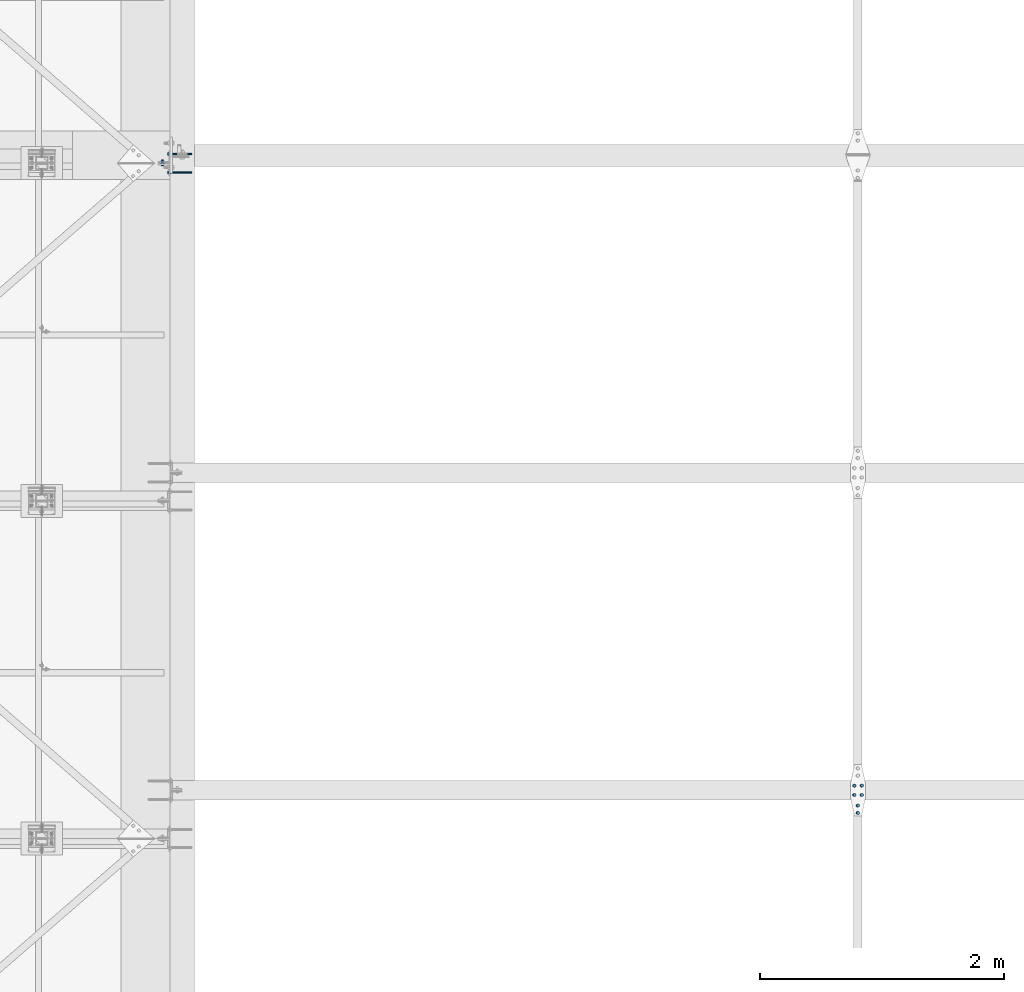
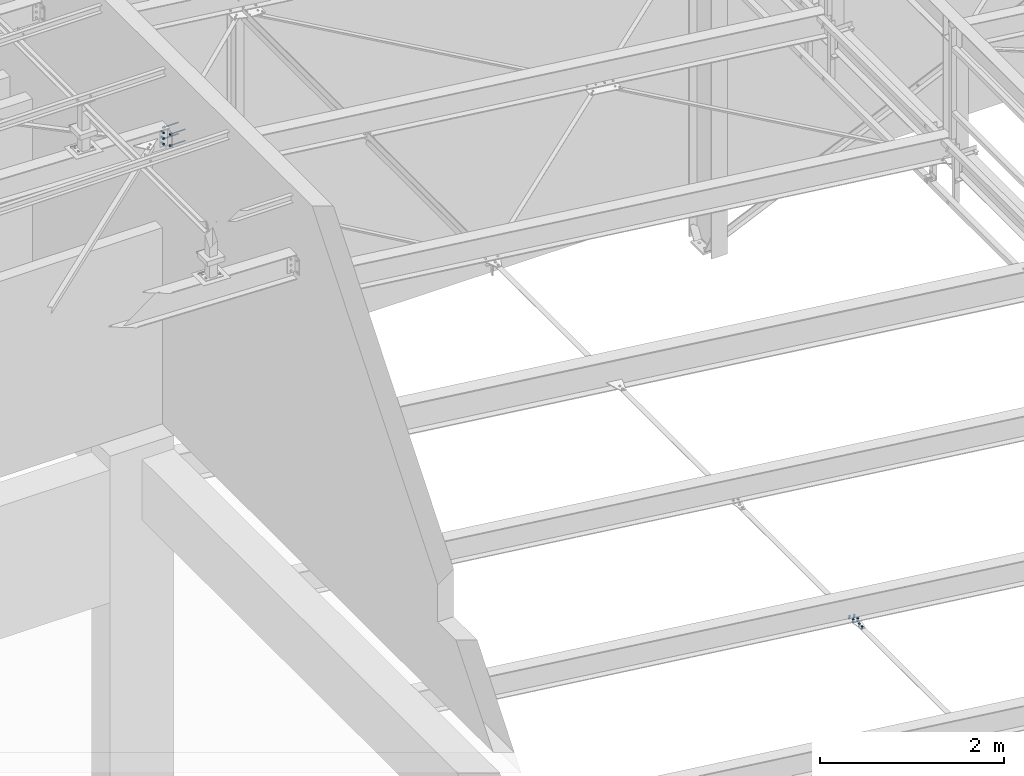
# One storey, part 280 of 3134: 5 mechanical fasteners, 4 elements without a shape of their own.
"""IFC2X3 building model written with IfcOpenShell, lengths in millimetres."""

from ifc_helpers import new_model, si_unit, frame, origin_with_axes, place, context, subcontext, project, spatial, faceted_brep, source, transform, mapped, material, type_object, element, aggregate, save


model = new_model("IFC2X3")

# Units and contexts
model_context = context("Model", 3, precision=1e-05, world=origin_with_axes())
body_context = subcontext(model_context, "Body", "Model", "MODEL_VIEW")
ifc_project = project(units=[si_unit("LENGTHUNIT", "METRE", prefix="MILLI"), si_unit("AREAUNIT", "SQUARE_METRE"), si_unit("VOLUMEUNIT", "CUBIC_METRE"), si_unit("MASSUNIT", "GRAM", prefix="KILO"), si_unit("TIMEUNIT", "SECOND"), si_unit("PLANEANGLEUNIT", "RADIAN"), si_unit("SOLIDANGLEUNIT", "STERADIAN"), si_unit("THERMODYNAMICTEMPERATUREUNIT", "DEGREE_CELSIUS"), si_unit("LUMINOUSINTENSITYUNIT", "LUMEN")], contexts=[model_context])

# Site, building, storey
site_placement = place(None, origin_with_axes())
site = spatial("IfcSite", under=ifc_project, at=site_placement, CompositionType="ELEMENT")
building_placement = place(site_placement, origin_with_axes())
building = spatial("IfcBuilding", under=site, at=building_placement, Name="Undefined", CompositionType="ELEMENT")
storey_placement = place(building_placement, origin_with_axes())
storey = spatial("IfcBuildingStorey", under=building, at=storey_placement, Name="Undefined", CompositionType="ELEMENT", Elevation=0.0)

# Assembly, mechanical fastener
assembly_1_placement = place(storey_placement, origin_with_axes())
assembly_1 = element("IfcElementAssembly", 1, at=assembly_1_placement, inside=storey, AssemblyPlace="NOTDEFINED", PredefinedType="RIGID_FRAME")
ifc_material_1 = material(Name="8.8")
mechanical_fastener_type = type_object("IfcMechanicalFastenerType", Name="Bolt assembly")
shared_shape_1 = source(origin_with_axes(), body_context, "Body", "Brep", [
    faceted_brep([(13.856406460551, -24.0, 0.0), (6.92820323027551, -24.0, 12.0), (-6.92820323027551, -24.0, 12.0), (-13.856406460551, -24.0, 1.69692038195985e-15), (-6.92820323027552, -24.0, -12.0), (6.9282032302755, -24.0, -12.0), (6.9282032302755, -14.0, -12.0), (-6.92820323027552, -14.0, -12.0), (-13.856406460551, -14.0, 1.69692038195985e-15), (-6.92820323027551, -14.0, 12.0), (6.92820323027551, -14.0, 12.0), (13.856406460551, -14.0, 0.0), (8.0, -14.0, 0.0), (6.92820323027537, -14.0, 4.00000000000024), (3.99999999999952, -14.0, 6.92820323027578), (-8.29068785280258e-13, -14.0, 8.0), (-4.00000000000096, -14.0, 6.92820323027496), (-6.9282032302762, -14.0, 3.99999999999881), (-8.0, -14.0, -1.65813757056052e-12), (-6.92820323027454, -14.0, -4.00000000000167), (-3.99999999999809, -14.0, -6.92820323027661), (2.47832457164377e-12, -14.0, -8.0), (4.00000000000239, -14.0, -6.92820323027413), (6.92820323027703, -14.0, -3.99999999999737), (6.92820323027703, 31.0, -3.99999999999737), (4.00000000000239, 31.0, -6.92820323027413), (2.47832457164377e-12, 31.0, -8.0), (-3.99999999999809, 31.0, -6.92820323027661), (-6.92820323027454, 31.0, -4.00000000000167), (-8.0, 31.0, -1.65813757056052e-12), (-6.9282032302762, 31.0, 3.99999999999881), (-4.00000000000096, 31.0, 6.92820323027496), (-8.29068785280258e-13, 31.0, 8.0), (3.99999999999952, 31.0, 6.92820323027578), (6.92820323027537, 31.0, 4.00000000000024), (8.0, 31.0, 0.0), (13.856406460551, 13.9999999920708, 0.0), (6.92820323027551, 13.9999999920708, 12.0), (-6.92820323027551, 13.9999999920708, 12.0), (-13.856406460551, 13.9999999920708, 1.69692038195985e-15), (-6.92820323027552, 13.9999999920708, -12.0), (6.9282032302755, 13.9999999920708, -12.0), (6.9282032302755, 27.0, -12.0), (-6.92820323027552, 27.0, -12.0), (-13.856406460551, 27.0, 1.69692038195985e-15), (-6.92820323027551, 27.0, 12.0), (6.92820323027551, 27.0, 12.0), (13.856406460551, 27.0, 0.0)], [[[0, 1, 2, 3, 4, 5]], [[6, 7, 8, 9, 10, 11]], [[0, 11, 10, 1]], [[1, 10, 9, 2]], [[2, 9, 8, 3]], [[3, 8, 7, 4]], [[4, 7, 6, 5]], [[5, 6, 11, 0]], [[12, 13, 14, 15, 16, 17, 18, 19, 20, 21, 22, 23]], [[24, 25, 26, 27, 28, 29, 30, 31, 32, 33, 34, 35]], [[12, 35, 34, 13]], [[13, 34, 33, 14]], [[14, 33, 32, 15]], [[15, 32, 31, 16]], [[16, 31, 30, 17]], [[17, 30, 29, 18]], [[18, 29, 28, 19]], [[19, 28, 27, 20]], [[20, 27, 26, 21]], [[21, 26, 25, 22]], [[22, 25, 24, 23]], [[23, 24, 35, 12]], [[36, 37, 38, 39, 40, 41]], [[42, 43, 44, 45, 46, 47]], [[36, 47, 46, 37]], [[37, 46, 45, 38]], [[38, 45, 44, 39]], [[39, 44, 43, 40]], [[40, 43, 42, 41]], [[41, 42, 47, 36]]]),
    faceted_brep([(9.0, -3.75, 8.0), (8.31491579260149, -3.75, 11.444150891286), (6.3639610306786, -3.75, 14.3639610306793), (-9.3270238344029e-13, -3.75, 17.0), (-4.50000000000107, -3.75, 15.7942286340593), (-7.79422863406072, -3.75, 12.4999999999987), (-9.0, -3.75, 7.99999999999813), (-9.0, -3.75, -8.00000000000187), (-7.79422863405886, -3.75, -12.5000000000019), (-4.49999999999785, -3.75, -15.7942286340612), (2.78811514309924e-12, -3.75, -17.0), (4.50000000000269, -3.75, -15.7942286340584), (7.79422863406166, -3.75, -12.499999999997), (9.0, -3.75, -7.99999999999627), (9.0, 3.75, -7.99999999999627), (7.79422863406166, 3.75, -12.499999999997), (4.50000000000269, 3.75, -15.7942286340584), (2.78811514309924e-12, 3.75, -17.0), (-4.49999999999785, 3.75, -15.7942286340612), (-7.79422863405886, 3.75, -12.5000000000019), (-9.0, 3.75, -8.00000000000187), (-9.0, 3.75, 7.99999999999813), (-7.79422863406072, 3.75, 12.4999999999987), (-4.50000000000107, 3.75, 15.7942286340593), (-9.3270238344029e-13, 3.75, 17.0), (3.44415089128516, 3.75, 16.3149157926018), (6.3639610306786, 3.75, 14.3639610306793), (8.31491579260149, 3.75, 11.444150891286), (9.0, 3.75, 8.0), (3.44415089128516, -3.75, 16.3149157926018), (9.0, 3.9, 0.0), (7.79422863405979, 3.9, 4.50000000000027), (4.49999999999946, 3.9, 7.79422863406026), (-9.3270238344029e-13, 3.9, 9.0), (-4.50000000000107, 3.9, 7.79422863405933), (-7.79422863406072, 3.9, 4.49999999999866), (-9.0, 3.9, -1.86540476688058e-12), (-7.79422863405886, 3.9, -4.50000000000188), (-4.49999999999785, 3.9, -7.79422863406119), (2.78811514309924e-12, 3.9, -9.0), (4.50000000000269, 3.9, -7.7942286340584), (7.79422863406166, 3.9, -4.49999999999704), (7.79422863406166, 14.0, -4.49999999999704), (4.50000000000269, 14.0, -7.7942286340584), (2.78811514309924e-12, 14.0, -9.0), (-4.49999999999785, 14.0, -7.79422863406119), (-7.79422863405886, 14.0, -4.50000000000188), (-9.0, 14.0, -1.86540476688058e-12), (-7.79422863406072, 14.0, 4.49999999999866), (-4.50000000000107, 14.0, 7.79422863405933), (-9.3270238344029e-13, 14.0, 9.0), (4.49999999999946, 14.0, 7.79422863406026), (7.79422863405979, 14.0, 4.50000000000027), (9.0, 14.0, 0.0), (9.0, -13.9, 0.0), (7.79422863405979, -13.9, 4.50000000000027), (4.49999999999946, -13.9, 7.79422863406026), (-9.3270238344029e-13, -13.9, 9.0), (-4.50000000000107, -13.9, 7.79422863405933), (-7.79422863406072, -13.9, 4.49999999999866), (-9.0, -13.9, -1.86540476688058e-12), (-7.79422863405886, -13.9, -4.50000000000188), (-4.49999999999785, -13.9, -7.79422863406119), (2.78811514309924e-12, -13.9, -9.0), (4.50000000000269, -13.9, -7.7942286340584), (7.79422863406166, -13.9, -4.49999999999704), (7.79422863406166, -3.9, -4.49999999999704), (4.50000000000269, -3.9, -7.7942286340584), (2.78811514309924e-12, -3.9, -9.0), (-4.49999999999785, -3.9, -7.79422863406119), (-7.79422863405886, -3.9, -4.50000000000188), (-9.0, -3.9, -1.86540476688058e-12), (-7.79422863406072, -3.9, 4.49999999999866), (-4.50000000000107, -3.9, 7.79422863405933), (-9.3270238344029e-13, -3.9, 9.0), (4.49999999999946, -3.9, 7.79422863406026), (7.79422863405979, -3.9, 4.50000000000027), (9.0, -3.9, 0.0)], [[[0, 1, 2, 3, 4, 5, 6, 7, 8, 9, 10, 11, 12, 13]], [[14, 15, 16, 17, 18, 19, 20, 21, 22, 23, 24, 25, 26, 27, 28]], [[0, 28, 27, 1]], [[1, 27, 26, 2]], [[2, 26, 25, 29]], [[29, 25, 24, 3]], [[3, 24, 23, 4]], [[4, 23, 22, 5]], [[5, 22, 21, 6]], [[6, 21, 20, 7]], [[7, 20, 19, 8]], [[8, 19, 18, 9]], [[9, 18, 17, 10]], [[10, 17, 16, 11]], [[11, 16, 15, 12]], [[12, 15, 14, 13]], [[13, 14, 28, 0]], [[30, 31, 32, 33, 34, 35, 36, 37, 38, 39, 40, 41]], [[42, 43, 44, 45, 46, 47, 48, 49, 50, 51, 52, 53]], [[30, 53, 52, 31]], [[31, 52, 51, 32]], [[32, 51, 50, 33]], [[33, 50, 49, 34]], [[34, 49, 48, 35]], [[35, 48, 47, 36]], [[36, 47, 46, 37]], [[37, 46, 45, 38]], [[38, 45, 44, 39]], [[39, 44, 43, 40]], [[40, 43, 42, 41]], [[41, 42, 53, 30]], [[54, 55, 56, 57, 58, 59, 60, 61, 62, 63, 64, 65]], [[66, 67, 68, 69, 70, 71, 72, 73, 74, 75, 76, 77]], [[54, 77, 76, 55]], [[55, 76, 75, 56]], [[56, 75, 74, 57]], [[57, 74, 73, 58]], [[58, 73, 72, 59]], [[59, 72, 71, 60]], [[60, 71, 70, 61]], [[61, 70, 69, 62]], [[62, 69, 68, 63]], [[63, 68, 67, 64]], [[64, 67, 66, 65]], [[65, 66, 77, 54]]]),
])
mechanical_fastener_1_placement = place(assembly_1_placement, frame((32665.0, 60985.0, 10096.4159140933), z_axis=(1.0, 0.0, 0.0), x_axis=(0.0, 0.0, -1.0)))
mechanical_fastener_1 = element("IfcMechanicalFastener", 2, at=mechanical_fastener_1_placement, type_object=mechanical_fastener_type, material=ifc_material_1, Name="Bolt assembly", NominalDiameter=16.0, NominalLength=45.0, context=body_context, shape_type="MappedRepresentation", body=[
    mapped(shared_shape_1, transform((0.0, 0.0, 0.0))),
    mapped(shared_shape_1, transform((75.0, 0.0, 0.0))),
    mapped(shared_shape_1, transform((150.0, 0.0, 0.0))),
])

assembly_2_placement = place(storey_placement, origin_with_axes())
assembly_2 = element("IfcElementAssembly", 3, at=assembly_2_placement, inside=storey, AssemblyPlace="NOTDEFINED", PredefinedType="RIGID_FRAME")
ifc_material_2 = material(Name="HILTI-HAS")
shared_shape_2 = source(origin_with_axes(), body_context, "Body", "Brep", [
    faceted_brep([(13.856406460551, -20.56, 0.0), (6.92820323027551, -20.56, 12.0), (-6.92820323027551, -20.56, 12.0), (-13.856406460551, -20.56, 1.69692038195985e-15), (-6.92820323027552, -20.56, -12.0), (6.9282032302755, -20.56, -12.0), (6.9282032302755, -10.0, -12.0), (-6.92820323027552, -10.0, -12.0), (-13.856406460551, -10.0, 1.69692038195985e-15), (-6.92820323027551, -10.0, 12.0), (6.92820323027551, -10.0, 12.0), (13.856406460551, -10.0, 0.0), (8.0, -10.0, 0.0), (6.92820323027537, -10.0, 4.00000000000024), (3.99999999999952, -10.0, 6.92820323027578), (-8.29068785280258e-13, -10.0, 8.0), (-4.00000000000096, -10.0, 6.92820323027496), (-6.9282032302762, -10.0, 3.99999999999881), (-8.0, -10.0, -1.65813757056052e-12), (-6.92820323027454, -10.0, -4.00000000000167), (-3.99999999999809, -10.0, -6.92820323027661), (2.47832457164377e-12, -10.0, -8.0), (4.00000000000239, -10.0, -6.92820323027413), (6.92820323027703, -10.0, -3.99999999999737), (6.92820323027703, 180.0, -3.99999999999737), (4.00000000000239, 180.0, -6.92820323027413), (2.47832457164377e-12, 180.0, -8.0), (-3.99999999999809, 180.0, -6.92820323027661), (-6.92820323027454, 180.0, -4.00000000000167), (-8.0, 180.0, -1.65813757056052e-12), (-6.9282032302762, 180.0, 3.99999999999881), (-4.00000000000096, 180.0, 6.92820323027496), (-8.29068785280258e-13, 180.0, 8.0), (3.99999999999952, 180.0, 6.92820323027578), (6.92820323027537, 180.0, 4.00000000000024), (8.0, 180.0, 0.0), (15.3344231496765, 7.105427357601e-15, 0.0), (7.66721157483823, 7.105427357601e-15, 13.28), (-7.66721157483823, 7.105427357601e-15, 13.28), (-15.3344231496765, 7.105427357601e-15, 1.87792522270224e-15), (-7.66721157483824, 7.105427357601e-15, -13.28), (7.66721157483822, 7.105427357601e-15, -13.28), (7.66721157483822, 10.56, -13.28), (-7.66721157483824, 10.56, -13.28), (-15.3344231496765, 10.56, 1.87792522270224e-15), (-7.66721157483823, 10.56, 13.28), (7.66721157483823, 10.56, 13.28), (15.3344231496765, 10.56, 0.0)], [[[0, 1, 2, 3, 4, 5]], [[6, 7, 8, 9, 10, 11]], [[0, 11, 10, 1]], [[1, 10, 9, 2]], [[2, 9, 8, 3]], [[3, 8, 7, 4]], [[4, 7, 6, 5]], [[5, 6, 11, 0]], [[12, 13, 14, 15, 16, 17, 18, 19, 20, 21, 22, 23]], [[24, 25, 26, 27, 28, 29, 30, 31, 32, 33, 34, 35]], [[12, 35, 34, 13]], [[13, 34, 33, 14]], [[14, 33, 32, 15]], [[15, 32, 31, 16]], [[16, 31, 30, 17]], [[17, 30, 29, 18]], [[18, 29, 28, 19]], [[19, 28, 27, 20]], [[20, 27, 26, 21]], [[21, 26, 25, 22]], [[22, 25, 24, 23]], [[23, 24, 35, 12]], [[36, 37, 38, 39, 40, 41]], [[42, 43, 44, 45, 46, 47]], [[36, 47, 46, 37]], [[37, 46, 45, 38]], [[38, 45, 44, 39]], [[39, 44, 43, 40]], [[40, 43, 42, 41]], [[41, 42, 47, 36]]]),
    faceted_brep([(9.0, -10.0, 0.0), (7.79422863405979, -10.0, 4.50000000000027), (4.49999999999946, -10.0, 7.79422863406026), (-9.3270238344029e-13, -10.0, 9.0), (-4.50000000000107, -10.0, 7.79422863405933), (-7.79422863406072, -10.0, 4.49999999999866), (-9.0, -10.0, -1.86540476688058e-12), (-7.79422863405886, -10.0, -4.50000000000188), (-4.49999999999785, -10.0, -7.79422863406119), (2.78811514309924e-12, -10.0, -9.0), (4.50000000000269, -10.0, -7.7942286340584), (7.79422863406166, -10.0, -4.49999999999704), (7.79422863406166, 0.100000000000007, -4.49999999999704), (4.50000000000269, 0.100000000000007, -7.7942286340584), (2.78811514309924e-12, 0.100000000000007, -9.0), (-4.49999999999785, 0.100000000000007, -7.79422863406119), (-7.79422863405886, 0.100000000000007, -4.50000000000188), (-9.0, 0.100000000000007, -1.86540476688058e-12), (-7.79422863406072, 0.100000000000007, 4.49999999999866), (-4.50000000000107, 0.100000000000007, 7.79422863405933), (-9.3270238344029e-13, 0.100000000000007, 9.0), (4.49999999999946, 0.100000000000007, 7.79422863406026), (7.79422863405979, 0.100000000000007, 4.50000000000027), (9.0, 0.100000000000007, 0.0)], [[[0, 1, 2, 3, 4, 5, 6, 7, 8, 9, 10, 11]], [[12, 13, 14, 15, 16, 17, 18, 19, 20, 21, 22, 23]], [[0, 23, 22, 1]], [[1, 22, 21, 2]], [[2, 21, 20, 3]], [[3, 20, 19, 4]], [[4, 19, 18, 5]], [[5, 18, 17, 6]], [[6, 17, 16, 7]], [[7, 16, 15, 8]], [[8, 15, 14, 9]], [[9, 14, 13, 10]], [[10, 13, 12, 11]], [[11, 12, 23, 0]]]),
])
mechanical_fastener_2_placement = place(assembly_2_placement, frame((32725.0, 60910.0, 10096.4159140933), z_axis=(0.0, -1.0, 0.0), x_axis=(0.0, 0.0, -1.0)))
mechanical_fastener_2 = element("IfcMechanicalFastener", 4, at=mechanical_fastener_2_placement, type_object=mechanical_fastener_type, material=ifc_material_2, Name="Bolt assembly", NominalDiameter=16.0, NominalLength=190.0, context=body_context, shape_type="MappedRepresentation", body=[
    mapped(shared_shape_2, transform((0.0, 0.0, 0.0))),
    mapped(shared_shape_2, transform((150.0, 0.0, 0.0))),
])
aggregate(assembly_2, [mechanical_fastener_2])

# Mechanical fastener
mechanical_fastener_3_placement = place(assembly_1_placement, frame((32725.0, 61060.0, 10096.4159140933), z_axis=(0.0, -1.0, 0.0), x_axis=(0.0, 0.0, -1.0)))
mechanical_fastener_3 = element("IfcMechanicalFastener", 5, at=mechanical_fastener_3_placement, type_object=mechanical_fastener_type, material=ifc_material_2, Name="Bolt assembly", NominalDiameter=16.0, NominalLength=190.0, context=body_context, shape_type="MappedRepresentation", body=[
    mapped(shared_shape_2, transform((0.0, 0.0, 0.0))),
    mapped(shared_shape_2, transform((150.0, 0.0, 0.0))),
])

aggregate(assembly_1, [mechanical_fastener_3, mechanical_fastener_1])

# Assembly, mechanical fastener
assembly_3_placement = place(storey_placement, origin_with_axes())
assembly_3 = element("IfcElementAssembly", 6, at=assembly_3_placement, inside=storey, Name="PL8", AssemblyPlace="NOTDEFINED", PredefinedType="RIGID_FRAME")
shared_shape_3 = source(origin_with_axes(), body_context, "Body", "Brep", [
    faceted_brep([(13.856406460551, -10.0, 0.0), (6.92820323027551, -10.0, 12.0), (-6.92820323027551, -10.0, 12.0), (-13.856406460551, -10.0, 1.69692038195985e-15), (-6.92820323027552, -10.0, -12.0), (6.9282032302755, -10.0, -12.0), (6.9282032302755, 0.0, -12.0), (-6.92820323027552, 0.0, -12.0), (-13.856406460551, 0.0, 1.69692038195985e-15), (-6.92820323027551, 0.0, 12.0), (6.92820323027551, 0.0, 12.0), (13.856406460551, 0.0, 0.0), (8.0, 0.0, 0.0), (6.92820323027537, 0.0, 4.00000000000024), (3.99999999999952, 0.0, 6.92820323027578), (-8.29068785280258e-13, 0.0, 8.0), (-4.00000000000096, 0.0, 6.92820323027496), (-6.9282032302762, 0.0, 3.99999999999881), (-8.0, 0.0, -1.65813757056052e-12), (-6.92820323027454, 0.0, -4.00000000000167), (-3.99999999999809, 0.0, -6.92820323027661), (2.47832457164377e-12, 0.0, -8.0), (4.00000000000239, 0.0, -6.92820323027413), (6.92820323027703, 0.0, -3.99999999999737), (6.92820323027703, 35.0000000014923, -3.99999999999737), (4.00000000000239, 35.0000000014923, -6.92820323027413), (2.47832457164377e-12, 35.0000000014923, -8.0), (-3.99999999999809, 35.0000000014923, -6.92820323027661), (-6.92820323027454, 35.0000000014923, -4.00000000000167), (-8.0, 35.0000000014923, -1.65813757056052e-12), (-6.9282032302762, 35.0000000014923, 3.99999999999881), (-4.00000000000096, 35.0000000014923, 6.92820323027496), (-8.29068785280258e-13, 35.0000000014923, 8.0), (3.99999999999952, 35.0000000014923, 6.92820323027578), (6.92820323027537, 35.0000000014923, 4.00000000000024), (8.0, 35.0000000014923, 0.0), (13.856406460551, 15.0039204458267, 0.0), (6.92820323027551, 15.0039204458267, 12.0), (-6.92820323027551, 15.0039204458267, 12.0), (-13.856406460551, 15.0039204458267, 1.69692038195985e-15), (-6.92820323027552, 15.0039204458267, -12.0), (6.9282032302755, 15.0039204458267, -12.0), (6.9282032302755, 28.0039204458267, -12.0), (-6.92820323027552, 28.0039204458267, -12.0), (-13.856406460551, 28.0039204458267, 1.69692038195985e-15), (-6.92820323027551, 28.0039204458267, 12.0), (6.92820323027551, 28.0039204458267, 12.0), (13.856406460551, 28.0039204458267, 0.0)], [[[0, 1, 2, 3, 4, 5]], [[6, 7, 8, 9, 10, 11]], [[0, 11, 10, 1]], [[1, 10, 9, 2]], [[2, 9, 8, 3]], [[3, 8, 7, 4]], [[4, 7, 6, 5]], [[5, 6, 11, 0]], [[12, 13, 14, 15, 16, 17, 18, 19, 20, 21, 22, 23]], [[24, 25, 26, 27, 28, 29, 30, 31, 32, 33, 34, 35]], [[12, 35, 34, 13]], [[13, 34, 33, 14]], [[14, 33, 32, 15]], [[15, 32, 31, 16]], [[16, 31, 30, 17]], [[17, 30, 29, 18]], [[18, 29, 28, 19]], [[19, 28, 27, 20]], [[20, 27, 26, 21]], [[21, 26, 25, 22]], [[22, 25, 24, 23]], [[23, 24, 35, 12]], [[36, 37, 38, 39, 40, 41]], [[42, 43, 44, 45, 46, 47]], [[36, 47, 46, 37]], [[37, 46, 45, 38]], [[38, 45, 44, 39]], [[39, 44, 43, 40]], [[40, 43, 42, 41]], [[41, 42, 47, 36]]]),
    faceted_brep([(9.0, 7.90392044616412, 0.0), (7.79422863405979, 7.90392044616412, 4.50000000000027), (4.49999999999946, 7.90392044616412, 7.79422863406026), (-9.3270238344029e-13, 7.90392044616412, 9.0), (-4.50000000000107, 7.90392044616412, 7.79422863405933), (-7.79422863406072, 7.90392044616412, 4.49999999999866), (-9.0, 7.90392044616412, -1.86540476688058e-12), (-7.79422863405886, 7.90392044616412, -4.50000000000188), (-4.49999999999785, 7.90392044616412, -7.79422863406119), (2.78811514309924e-12, 7.90392044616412, -9.0), (4.50000000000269, 7.90392044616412, -7.7942286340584), (7.79422863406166, 7.90392044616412, -4.49999999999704), (7.79422863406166, 15.0039204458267, -4.49999999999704), (4.50000000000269, 15.0039204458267, -7.7942286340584), (2.78811514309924e-12, 15.0039204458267, -9.0), (-4.49999999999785, 15.0039204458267, -7.79422863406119), (-7.79422863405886, 15.0039204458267, -4.50000000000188), (-9.0, 15.0039204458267, -1.86540476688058e-12), (-7.79422863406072, 15.0039204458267, 4.49999999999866), (-4.50000000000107, 15.0039204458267, 7.79422863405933), (-9.3270238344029e-13, 15.0039204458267, 9.0), (4.49999999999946, 15.0039204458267, 7.79422863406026), (7.79422863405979, 15.0039204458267, 4.50000000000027), (9.0, 15.0039204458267, 0.0), (9.0, 0.100000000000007, 0.0), (7.79422863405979, 0.100000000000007, 4.50000000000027), (4.49999999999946, 0.100000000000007, 7.79422863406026), (-9.3270238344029e-13, 0.100000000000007, 9.0), (-4.50000000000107, 0.100000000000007, 7.79422863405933), (-7.79422863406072, 0.100000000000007, 4.49999999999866), (-9.0, 0.100000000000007, -1.86540476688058e-12), (-7.79422863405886, 0.100000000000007, -4.50000000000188), (-4.49999999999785, 0.100000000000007, -7.79422863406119), (2.78811514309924e-12, 0.100000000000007, -9.0), (4.50000000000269, 0.100000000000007, -7.7942286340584), (7.79422863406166, 0.100000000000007, -4.49999999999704), (7.79422863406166, 8.1, -4.49999999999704), (4.50000000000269, 8.1, -7.7942286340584), (2.78811514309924e-12, 8.1, -9.0), (-4.49999999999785, 8.1, -7.79422863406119), (-7.79422863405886, 8.1, -4.50000000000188), (-9.0, 8.1, -1.86540476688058e-12), (-7.79422863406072, 8.1, 4.49999999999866), (-4.50000000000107, 8.1, 7.79422863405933), (-9.3270238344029e-13, 8.1, 9.0), (4.49999999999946, 8.1, 7.79422863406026), (7.79422863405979, 8.1, 4.50000000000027), (9.0, 8.1, 0.0)], [[[0, 1, 2, 3, 4, 5, 6, 7, 8, 9, 10, 11]], [[12, 13, 14, 15, 16, 17, 18, 19, 20, 21, 22, 23]], [[0, 23, 22, 1]], [[1, 22, 21, 2]], [[2, 21, 20, 3]], [[3, 20, 19, 4]], [[4, 19, 18, 5]], [[5, 18, 17, 6]], [[6, 17, 16, 7]], [[7, 16, 15, 8]], [[8, 15, 14, 9]], [[9, 14, 13, 10]], [[10, 13, 12, 11]], [[11, 12, 23, 0]], [[24, 25, 26, 27, 28, 29, 30, 31, 32, 33, 34, 35]], [[36, 37, 38, 39, 40, 41, 42, 43, 44, 45, 46, 47]], [[24, 47, 46, 25]], [[25, 46, 45, 26]], [[26, 45, 44, 27]], [[27, 44, 43, 28]], [[28, 43, 42, 29]], [[29, 42, 41, 30]], [[30, 41, 40, 31]], [[31, 40, 39, 32]], [[32, 39, 38, 33]], [[33, 38, 37, 34]], [[34, 37, 36, 35]], [[35, 36, 47, 24]]]),
])
mechanical_fastener_4_placement = place(assembly_3_placement, frame((38358.9798217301, 55725.0, 4773.97816653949), z_axis=(0.992623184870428, 0.0, -0.121240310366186), x_axis=(0.0, -1.0, 0.0)))
mechanical_fastener_4 = element("IfcMechanicalFastener", 7, at=mechanical_fastener_4_placement, type_object=mechanical_fastener_type, material=ifc_material_1, Name="Bolt assembly", NominalDiameter=16.0, NominalLength=35.0, context=body_context, shape_type="MappedRepresentation", body=[
    mapped(shared_shape_3, transform((0.0, 0.0, 0.0))),
    mapped(shared_shape_3, transform((59.9999999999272, 0.0, 5.40239852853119e-10))),
])
aggregate(assembly_3, [mechanical_fastener_4])

assembly_4_placement = place(storey_placement, origin_with_axes())
assembly_4 = element("IfcElementAssembly", 8, at=assembly_4_placement, inside=storey, Name="IPE330", AssemblyPlace="NOTDEFINED", PredefinedType="RIGID_FRAME")
shared_shape_4 = source(origin_with_axes(), body_context, "Body", "Brep", [
    faceted_brep([(13.856406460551, -21.4995363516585, 0.0), (6.92820323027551, -21.4995363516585, 12.0), (-6.92820323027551, -21.4995363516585, 12.0), (-13.856406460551, -21.4995363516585, 1.69692038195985e-15), (-6.92820323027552, -21.4995363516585, -12.0), (6.9282032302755, -21.4995363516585, -12.0), (6.9282032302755, -11.4995363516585, -12.0), (-6.92820323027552, -11.4995363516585, -12.0), (-13.856406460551, -11.4995363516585, 1.69692038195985e-15), (-6.92820323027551, -11.4995363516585, 12.0), (6.92820323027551, -11.4995363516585, 12.0), (13.856406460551, -11.4995363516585, 0.0), (8.0, -11.4995363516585, 0.0), (6.92820323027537, -11.4995363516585, 4.00000000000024), (3.99999999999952, -11.4995363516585, 6.92820323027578), (-8.29068785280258e-13, -11.4995363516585, 8.0), (-4.00000000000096, -11.4995363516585, 6.92820323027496), (-6.9282032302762, -11.4995363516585, 3.99999999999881), (-8.0, -11.4995363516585, -1.65813757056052e-12), (-6.92820323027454, -11.4995363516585, -4.00000000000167), (-3.99999999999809, -11.4995363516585, -6.92820323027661), (2.47832457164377e-12, -11.4995363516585, -8.0), (4.00000000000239, -11.4995363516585, -6.92820323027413), (6.92820323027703, -11.4995363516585, -3.99999999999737), (6.92820323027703, 28.5004636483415, -3.99999999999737), (4.00000000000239, 28.5004636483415, -6.92820323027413), (2.47832457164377e-12, 28.5004636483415, -8.0), (-3.99999999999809, 28.5004636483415, -6.92820323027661), (-6.92820323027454, 28.5004636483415, -4.00000000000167), (-8.0, 28.5004636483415, -1.65813757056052e-12), (-6.9282032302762, 28.5004636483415, 3.99999999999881), (-4.00000000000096, 28.5004636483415, 6.92820323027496), (-8.29068785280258e-13, 28.5004636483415, 8.0), (3.99999999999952, 28.5004636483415, 6.92820323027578), (6.92820323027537, 28.5004636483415, 4.00000000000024), (8.0, 28.5004636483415, 0.0), (13.856406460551, 7.9998399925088, 0.0), (6.92820323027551, 7.9998399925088, 12.0), (-6.92820323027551, 7.9998399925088, 12.0), (-13.856406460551, 7.9998399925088, 1.69692038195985e-15), (-6.92820323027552, 7.9998399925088, -12.0), (6.9282032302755, 7.9998399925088, -12.0), (6.9282032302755, 20.9998399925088, -12.0), (-6.92820323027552, 20.9998399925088, -12.0), (-13.856406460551, 20.9998399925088, 1.69692038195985e-15), (-6.92820323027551, 20.9998399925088, 12.0), (6.92820323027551, 20.9998399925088, 12.0), (13.856406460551, 20.9998399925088, 0.0)], [[[0, 1, 2, 3, 4, 5]], [[6, 7, 8, 9, 10, 11]], [[0, 11, 10, 1]], [[1, 10, 9, 2]], [[2, 9, 8, 3]], [[3, 8, 7, 4]], [[4, 7, 6, 5]], [[5, 6, 11, 0]], [[12, 13, 14, 15, 16, 17, 18, 19, 20, 21, 22, 23]], [[24, 25, 26, 27, 28, 29, 30, 31, 32, 33, 34, 35]], [[12, 35, 34, 13]], [[13, 34, 33, 14]], [[14, 33, 32, 15]], [[15, 32, 31, 16]], [[16, 31, 30, 17]], [[17, 30, 29, 18]], [[18, 29, 28, 19]], [[19, 28, 27, 20]], [[20, 27, 26, 21]], [[21, 26, 25, 22]], [[22, 25, 24, 23]], [[23, 24, 35, 12]], [[36, 37, 38, 39, 40, 41]], [[42, 43, 44, 45, 46, 47]], [[36, 47, 46, 37]], [[37, 46, 45, 38]], [[38, 45, 44, 39]], [[39, 44, 43, 40]], [[40, 43, 42, 41]], [[41, 42, 47, 36]]]),
    faceted_brep([(9.0, -0.100160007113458, 0.0), (7.79422863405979, -0.100160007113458, 4.50000000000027), (4.49999999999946, -0.100160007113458, 7.79422863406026), (-9.3270238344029e-13, -0.100160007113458, 9.0), (-4.50000000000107, -0.100160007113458, 7.79422863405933), (-7.79422863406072, -0.100160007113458, 4.49999999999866), (-9.0, -0.100160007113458, -1.86540476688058e-12), (-7.79422863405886, -0.100160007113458, -4.50000000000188), (-4.49999999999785, -0.100160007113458, -7.79422863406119), (2.78811514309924e-12, -0.100160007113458, -9.0), (4.50000000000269, -0.100160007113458, -7.7942286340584), (7.79422863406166, -0.100160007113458, -4.49999999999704), (7.79422863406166, 7.9998399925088, -4.49999999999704), (4.50000000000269, 7.9998399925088, -7.7942286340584), (2.78811514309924e-12, 7.9998399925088, -9.0), (-4.49999999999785, 7.9998399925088, -7.79422863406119), (-7.79422863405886, 7.9998399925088, -4.50000000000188), (-9.0, 7.9998399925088, -1.86540476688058e-12), (-7.79422863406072, 7.9998399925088, 4.49999999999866), (-4.50000000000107, 7.9998399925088, 7.79422863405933), (-9.3270238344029e-13, 7.9998399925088, 9.0), (4.49999999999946, 7.9998399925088, 7.79422863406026), (7.79422863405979, 7.9998399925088, 4.50000000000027), (9.0, 7.9998399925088, 0.0), (9.0, -11.3995363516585, 0.0), (7.79422863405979, -11.3995363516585, 4.50000000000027), (4.49999999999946, -11.3995363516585, 7.79422863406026), (-9.3270238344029e-13, -11.3995363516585, 9.0), (-4.50000000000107, -11.3995363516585, 7.79422863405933), (-7.79422863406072, -11.3995363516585, 4.49999999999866), (-9.0, -11.3995363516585, -1.86540476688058e-12), (-7.79422863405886, -11.3995363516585, -4.50000000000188), (-4.49999999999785, -11.3995363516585, -7.79422863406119), (2.78811514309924e-12, -11.3995363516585, -9.0), (4.50000000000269, -11.3995363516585, -7.7942286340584), (7.79422863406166, -11.3995363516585, -4.49999999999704), (7.79422863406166, 0.100463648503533, -4.49999999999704), (4.50000000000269, 0.100463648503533, -7.7942286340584), (2.78811514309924e-12, 0.100463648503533, -9.0), (-4.49999999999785, 0.100463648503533, -7.79422863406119), (-7.79422863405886, 0.100463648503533, -4.50000000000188), (-9.0, 0.100463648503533, -1.86540476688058e-12), (-7.79422863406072, 0.100463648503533, 4.49999999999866), (-4.50000000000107, 0.100463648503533, 7.79422863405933), (-9.3270238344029e-13, 0.100463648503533, 9.0), (4.49999999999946, 0.100463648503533, 7.79422863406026), (7.79422863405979, 0.100463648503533, 4.50000000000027), (9.0, 0.100463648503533, 0.0)], [[[0, 1, 2, 3, 4, 5, 6, 7, 8, 9, 10, 11]], [[12, 13, 14, 15, 16, 17, 18, 19, 20, 21, 22, 23]], [[0, 23, 22, 1]], [[1, 22, 21, 2]], [[2, 21, 20, 3]], [[3, 20, 19, 4]], [[4, 19, 18, 5]], [[5, 18, 17, 6]], [[6, 17, 16, 7]], [[7, 16, 15, 8]], [[8, 15, 14, 9]], [[9, 14, 13, 10]], [[10, 13, 12, 11]], [[11, 12, 23, 0]], [[24, 25, 26, 27, 28, 29, 30, 31, 32, 33, 34, 35]], [[36, 37, 38, 39, 40, 41, 42, 43, 44, 45, 46, 47]], [[24, 47, 46, 25]], [[25, 46, 45, 26]], [[26, 45, 44, 27]], [[27, 44, 43, 28]], [[28, 43, 42, 29]], [[29, 42, 41, 30]], [[30, 41, 40, 31]], [[31, 40, 39, 32]], [[32, 39, 38, 33]], [[33, 38, 37, 34]], [[34, 37, 36, 35]], [[35, 36, 47, 24]]]),
])
mechanical_fastener_5_placement = place(assembly_4_placement, frame((38358.9798217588, 55812.0, 4773.97816653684), z_axis=(-0.992622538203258, 0.0, 0.121245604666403), x_axis=(0.0, 1.0, 0.0)))
mechanical_fastener_5 = element("IfcMechanicalFastener", 9, at=mechanical_fastener_5_placement, type_object=mechanical_fastener_type, material=ifc_material_1, Name="Bolt assembly", NominalDiameter=16.0, NominalLength=40.0, context=body_context, shape_type="MappedRepresentation", body=[
    mapped(shared_shape_4, transform((0.0, 4.54747350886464e-13, -30.0000000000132))),
    mapped(shared_shape_4, transform((76.0, -2.00088834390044e-10, -29.9999999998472))),
    mapped(shared_shape_4, transform((0.0, 4.54747350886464e-13, 30.0000000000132))),
    mapped(shared_shape_4, transform((76.0, 1.98269844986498e-10, 29.9999999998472))),
])
aggregate(assembly_4, [mechanical_fastener_5])

save(model, "model.ifc")
